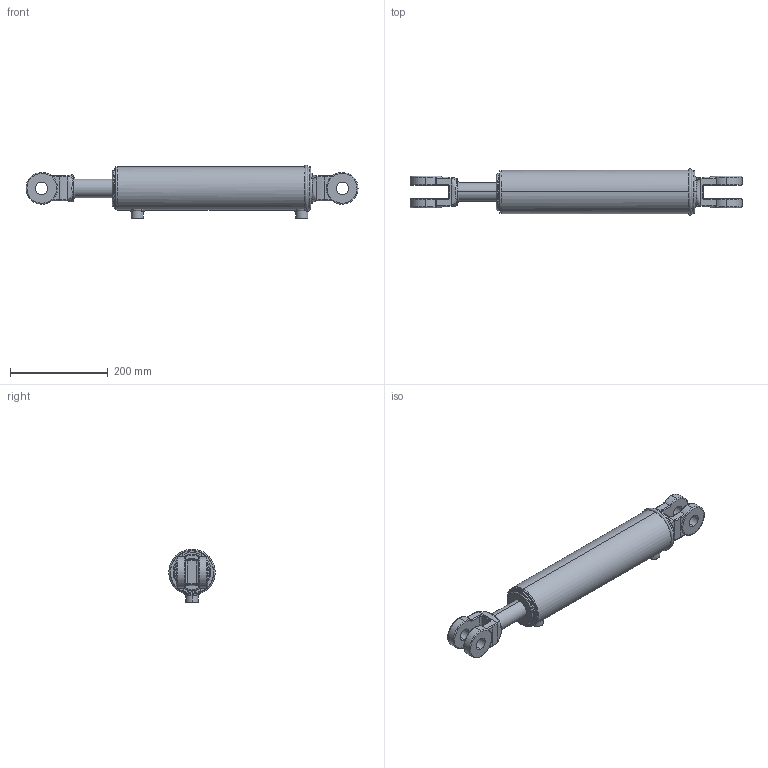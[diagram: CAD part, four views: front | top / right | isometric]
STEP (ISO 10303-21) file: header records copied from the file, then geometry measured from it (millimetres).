
FILE_DESCRIPTION (( 'STEP AP203' ), '1' );
FILE_NAME ('CL-CL300150x305 (12).STEP', '2014-11-21T23:18:10', ( '' ), ( '' ), 'SwSTEP 2.0', 'SolidWorks 2014', '' );
FILE_SCHEMA (( 'CONFIG_CONTROL_DESIGN' ));
Length unit declared in the file: millimetre
Products named in the file (4): CL-CL300150x  body_3x12; 3 in ext circlip; SPARE 6_12x1.5; CL-CL300150x305 (12)
Assembly tree (3 placements, depth 2):
  CL-CL300150x305 (12)
    CL-CL300150x  body_3x12
    3 in ext circlip
    SPARE 6_12x1.5
Bounding box: 679.39 x 94.87 x 109.9 mm (x, y, z)
Volume: 3019001.5 mm3; surface area: 278819.1 mm2
Topology: 3 solids, 3 shells, 212 faces, 515 edges, 316 vertices
Faces by surface type: cylinder 92, bspline 61, plane 37, torus 14, cone 8
Entity records: 11771 total; most frequent: CARTESIAN_POINT 6695, ORIENTED_EDGE 1022, DIRECTION 943, EDGE_CURVE 511, AXIS2_PLACEMENT_3D 393, VERTEX_POINT 316, CIRCLE 236, EDGE_LOOP 235
